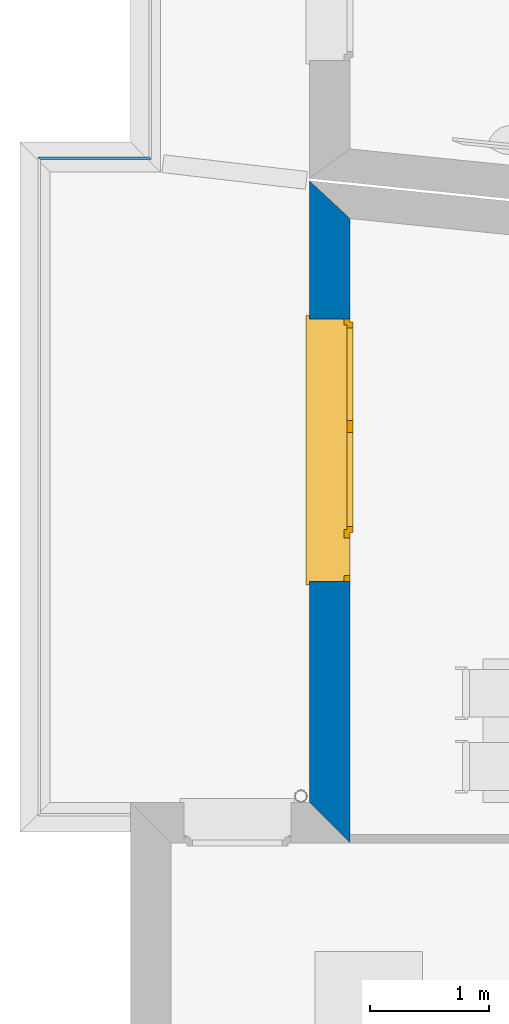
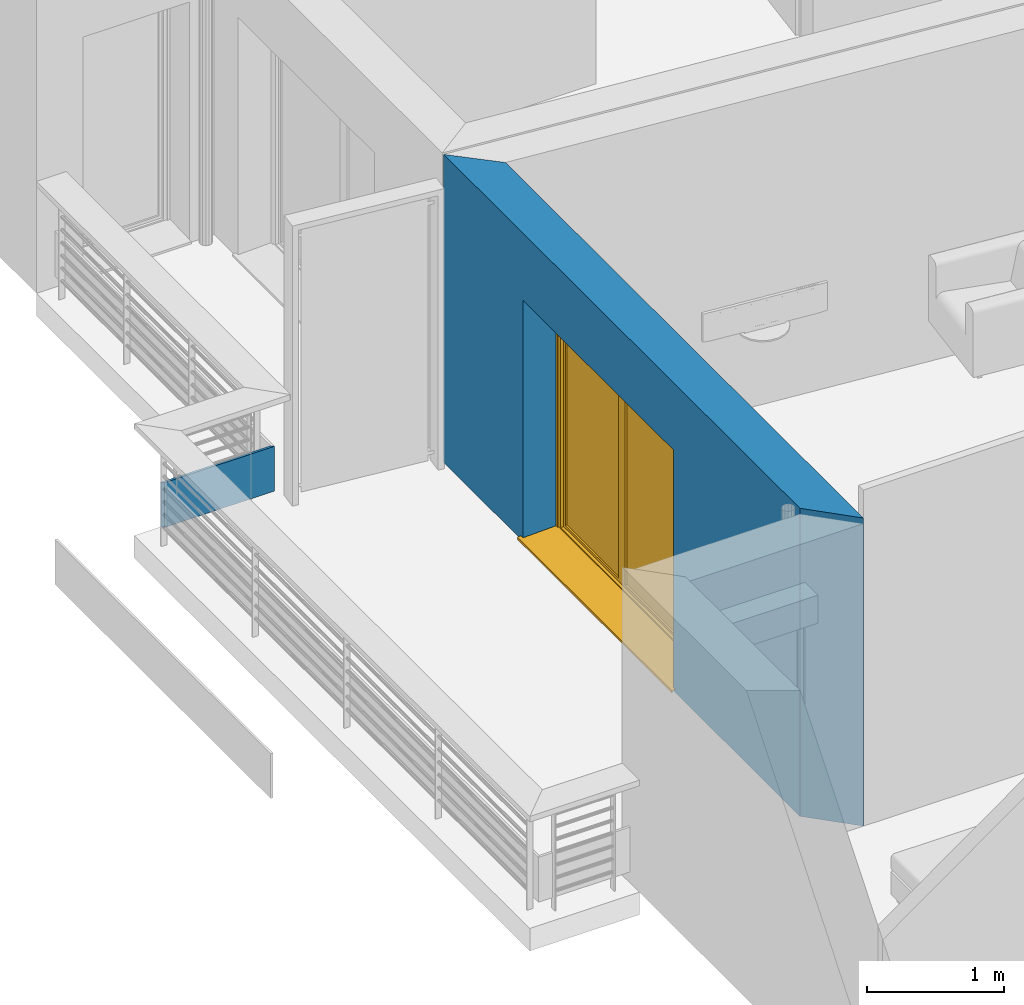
# One storey, part 42 of 164: 2 walls, 1 window, 1 opening.
"""IFC2X3 building model written with IfcOpenShell, lengths in millimetres."""

from ifc_helpers import new_model, entity, si_unit, converted_unit, derived_unit, money_unit, direction, frame, origin_with_axes, place, context, subcontext, project, spatial, polyline, outline, extrude, open_shell, faceted_brep, surface_model, source, transform, mapped, material, layer, layer_set, layer_usage, type_object, element, fill, save


model = new_model("IFC2X3")

# Units and contexts
model_context = context("Model", 3, precision=0.01, world=origin_with_axes(), true_north=direction((0.0, 1.0)))
body_context = subcontext(model_context, "Body", "Model", "MODEL_VIEW")
ifc_project = project(units=[si_unit("LENGTHUNIT", "METRE", prefix="MILLI"), si_unit("AREAUNIT", "SQUARE_METRE"), si_unit("VOLUMEUNIT", "CUBIC_METRE"), converted_unit("PLANEANGLEUNIT", "DEGREE", entity("IfcPlaneAngleMeasure", 0.0174532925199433), si_unit("PLANEANGLEUNIT", "RADIAN"), dimensions=[0, 0, 0, 0, 0, 0, 0]), money_unit("USD"), converted_unit("TIMEUNIT", "Year", entity("IfcTimeMeasure", 31557600.0), si_unit("TIMEUNIT", "SECOND"), dimensions=[0, 0, 1, 0, 0, 0, 0]), si_unit("MASSUNIT", "GRAM", prefix="KILO"), si_unit("THERMODYNAMICTEMPERATUREUNIT", "DEGREE_CELSIUS"), si_unit("LUMINOUSINTENSITYUNIT", "LUMEN"), si_unit("ENERGYUNIT", "JOULE", prefix="MEGA"), derived_unit("THERMALCONDUCTANCEUNIT", [(si_unit("POWERUNIT", "WATT"), 1), (si_unit("LENGTHUNIT", "METRE"), -1), (si_unit("THERMODYNAMICTEMPERATUREUNIT", "KELVIN"), -1)]), derived_unit("SPECIFICHEATCAPACITYUNIT", [(si_unit("ENERGYUNIT", "JOULE"), 1), (si_unit("MASSUNIT", "GRAM", prefix="KILO"), -1), (si_unit("THERMODYNAMICTEMPERATUREUNIT", "KELVIN"), -1)]), derived_unit("MASSDENSITYUNIT", [(si_unit("MASSUNIT", "GRAM", prefix="KILO"), 1), (si_unit("VOLUMEUNIT", "CUBIC_METRE"), -1)])], contexts=[model_context])

# Site, building, storey
site_placement = place(None, origin_with_axes())
site = spatial("IfcSite", under=ifc_project, at=site_placement, Name="Site", CompositionType="ELEMENT")
building_placement = place(site_placement, origin_with_axes())
building = spatial("IfcBuilding", under=site, at=building_placement, Name="Bâtiment", CompositionType="ELEMENT")
storey_placement = place(building_placement, frame((0.0, 0.0, 5750.0), z_axis=(0.0, 0.0, 1.0), x_axis=(1.0, 0.0, 0.0)))
storey = spatial("IfcBuildingStorey", under=building, at=storey_placement, Name="Etage1", CompositionType="ELEMENT", Elevation=5750.0)

# Wall
ifc_material_1 = material(Name="MANQUANT")
ifc_layer_1 = layer(ifc_material_1, 20.0, ventilated="UNKNOWN")
ifc_layer_set_1 = layer_set([ifc_layer_1], Name="MANQUANT 20")
ifc_layer_usage_1 = layer_usage(ifc_layer_set_1, "AXIS2", "NEGATIVE", 20.0)
wall_type_1 = type_object("IfcWallType", Name="MANQUANT 20", PredefinedType="NOTDEFINED")
wall_1_placement = place(storey_placement, frame((2216789.181069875, -620663.1638199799, 99.99999999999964), z_axis=(0.0, 0.0, 1.0), x_axis=(-1.0, 0.0, 0.0)))
element("IfcWallStandardCase", 1, at=wall_1_placement, inside=storey, type_object=wall_type_1, material=ifc_layer_usage_1, Name="Mur-187", context=body_context, shape_type="SweptSolid", body=[
    extrude(outline(polyline([(0.0, 0.0), (929.9455012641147, 0.0), (909.9455012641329, 20.00000000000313), (-19.99999999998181, 20.00000000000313), (0.0, 0.0)])), origin_with_axes(), (0.0, 0.0, 1.0), 400.0),
])

# Wall, opening, window
ifc_material_2 = material(Name="Parpaing 312445824")
ifc_layer_2 = layer(ifc_material_2, 180.0, ventilated="UNKNOWN")
ifc_material_3 = material(Name="Isolant styromousse 301821074")
ifc_layer_3 = layer(ifc_material_3, 160.0, ventilated="UNKNOWN")
ifc_layer_set_2 = layer_set([ifc_layer_2, ifc_layer_3], Name="isol int 18+16 0018356637")
ifc_layer_usage_2 = layer_usage(ifc_layer_set_2, "AXIS2", "POSITIVE", 0.0)
wall_type_2 = type_object("IfcWallType", Name="isol int 18+16 0018356637 340", PredefinedType="NOTDEFINED")
wall_2_placement = place(storey_placement, frame((2218134.233344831, -620861.89890305, 0.0), z_axis=(0.0, 0.0, 1.0), x_axis=(4.268874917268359e-07, -0.999999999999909, 0.0)))
wall_2 = element("IfcWallStandardCase", 2, at=wall_2_placement, inside=storey, type_object=wall_type_2, material=ifc_layer_usage_2, Name="Mur-143", context=body_context, shape_type="SweptSolid", body=[
    extrude(outline(polyline([(0.0, 0.0), (5209.315229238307, 0.0), (5549.315374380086, 339.9999999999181), (315.9944275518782, 339.9999999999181), (0.0, 0.0)])), origin_with_axes(), (0.0, 0.0, 1.0), 2750.0),
])
opening_placement = place(wall_2_placement, frame((2258.51458169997, -1.13686837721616e-10, 0.0), z_axis=(0.0, 0.0, 1.0), x_axis=(1.0, 0.0, 0.0)))
opening = element("IfcOpeningElement", 3, at=opening_placement, cuts=wall_2, Name="Fen-133", context=body_context, shape_type="Brep", body=[
    faceted_brep([(-1100.000000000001, 290.0000000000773, 2150.0), (-1100.000000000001, 341.0022237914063, 2150.0), (-1100.000000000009, 341.0022237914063, 0.0), (-1100.000000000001, 290.0000000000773, 0.0), (-1100.000000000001, 279.9999999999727, 2150.0), (-1100.000000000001, 279.9999999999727, 2400.0), (-1100.000000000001, 529.9999999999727, 2400.0), (-1100.000000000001, 529.9999999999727, 2150.0), (1100.000000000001, 341.0022237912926, 2150.0), (1100.000000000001, 341.0022237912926, 0.0), (1100.000000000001, 289.9999999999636, 0.0), (1100.000000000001, -1.00222379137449, 0.0), (-1100.000000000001, -1.002223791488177, 0.0), (-1100.000000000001, -1.002223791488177, 2150.0), (1100.000000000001, 279.9999999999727, 2150.0), (1100.000000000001, 279.9999999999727, 2400.0), (1099.999999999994, 530.0000000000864, 2400.0), (1099.999999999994, 530.0000000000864, 2150.0), (1099.999999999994, 289.9999999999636, 2150.0), (1100.000000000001, -1.00222379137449, 2150.0)], [[[0, 1, 2, 3]], [[1, 0, 4, 5, 6, 7]], [[1, 8, 9, 2]], [[10, 11, 12, 3, 2, 9]], [[4, 0, 3, 12, 13]], [[4, 14, 15, 5]], [[15, 16, 6, 5]], [[16, 17, 7, 6]], [[8, 1, 7, 17]], [[8, 18, 10, 9]], [[18, 14, 19, 11, 10]], [[13, 12, 11, 19]], [[14, 4, 13, 19]], [[18, 8, 17, 16, 15, 14]]]),
])
window_style = type_object("IfcWindowStyle", Name="Fenêtre châssis double variable 27", ConstructionType="NOTDEFINED", OperationType="TRIPLE_PANEL_VERTICAL", ParameterTakesPrecedence=False, Sizeable=False)
shared_shape = source(origin_with_axes(), body_context, "Body", "SurfaceModel", [
    surface_model("IfcShellBasedSurfaceModel", [(1100.0, -51.0, 40.00000000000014), (1100.0, -51.0, 50.00000000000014), (-1100.0, -51.0, 50.0), (-1100.0, -51.0, 40.0), (1130.0, -369.9999999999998, 28.96551724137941), (1130.0, -339.9999999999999, 30.00324289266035), (1100.0, -339.9999999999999, 30.00324289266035), (-1100.0, -339.9999999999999, 30.00324289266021), (-1130.0, -339.9999999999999, 30.00324289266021), (-1130.0, -369.9999999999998, 28.96551724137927), (1130.0, -369.9999999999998, 8.965517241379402), (-1130.0, -369.9999999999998, 8.965517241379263), (1130.0, -359.9999999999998, 18.9655172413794), (-1130.0, -359.9999999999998, 18.96551724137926)], [open_shell([[[0, 1, 2, 3]], [[4, 5, 6, 0, 3, 7, 8, 9]], [[10, 4, 9, 11]], [[12, 10, 11, 13]]])]),
    faceted_brep([(-1100.0, -60.0, 2400.0), (-1097.0, -60.0, 2400.0), (-1097.0, 189.9999999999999, 2400.0), (-1100.0, 189.9999999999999, 2400.0), (-1100.0, -60.0, 2150.0), (-1097.0, -60.0, 2150.0), (-1097.0, 189.9999999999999, 2150.0), (-1100.0, 189.9999999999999, 2150.0)], [[[0, 1, 2, 3]], [[4, 5, 1, 0]], [[1, 5, 6, 2]], [[3, 2, 6, 7]], [[0, 3, 7, 4]], [[7, 6, 5, 4]]]),
    faceted_brep([(1097.0, -59.99999999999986, 2400.0), (1100.0, -59.99999999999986, 2400.0), (1100.0, 190.0000000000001, 2400.0), (1097.0, 190.0000000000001, 2400.0), (1097.0, -59.99999999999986, 2150.0), (1100.0, -59.99999999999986, 2150.0), (1100.0, 190.0000000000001, 2150.0), (1097.0, 190.0000000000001, 2150.0)], [[[0, 1, 2, 3]], [[4, 5, 1, 0]], [[1, 5, 6, 2]], [[3, 2, 6, 7]], [[0, 3, 7, 4]], [[7, 6, 5, 4]]]),
    faceted_brep([(-1097.0, -59.99999999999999, 2150.0), (1097.0, -59.99999999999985, 2150.0), (1097.0, -59.99999999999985, 2400.0), (-1097.0, -59.99999999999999, 2400.0), (-1097.0, -56.99999999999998, 2150.0), (1097.0, -56.99999999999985, 2150.0), (1097.0, -56.99999999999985, 2397.0), (1097.0, 187.0000000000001, 2397.0), (1097.0, 187.0000000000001, 2153.0), (1097.0, -37.99999999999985, 2153.0), (1097.0, -37.99999999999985, 2150.0), (1097.0, 190.0000000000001, 2150.0), (1097.0, 190.0000000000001, 2400.0), (-1097.0, 189.9999999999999, 2400.0), (-1097.0, 189.9999999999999, 2150.0), (-1097.0, -37.99999999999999, 2150.0), (-1097.0, -37.99999999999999, 2153.0), (-1097.0, 187.0, 2153.0), (-1097.0, 187.0, 2397.0), (-1097.0, -56.99999999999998, 2397.0)], [[[0, 1, 2, 3]], [[4, 5, 1, 0]], [[1, 5, 6, 7, 8, 9, 10, 11, 12, 2]], [[3, 2, 12, 13]], [[0, 3, 13, 14, 15, 16, 17, 18, 19, 4]], [[19, 6, 5, 4]], [[18, 7, 6, 19]], [[17, 8, 7, 18]], [[16, 9, 8, 17]], [[15, 10, 9, 16]], [[14, 11, 10, 15]], [[13, 12, 11, 14]]]),
    faceted_brep([(-1094.0, -40.37442957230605, 2256.419644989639), (-1094.0, -41.99999999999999, 2275.0), (-1094.0, -40.37442957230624, 2293.580355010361), (-1094.0, -35.54711042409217, 2311.596155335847), (-1094.0, -27.66471820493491, 2328.5), (-1094.0, -16.96675541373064, 2343.77827423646), (-1094.0, -3.778274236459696, 2356.96675541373), (-1094.0, 11.5, 2367.664718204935), (-1094.0, 28.40384466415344, 2375.547110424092), (-1094.0, 46.41964498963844, 2380.374429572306), (-1094.0, 64.99999999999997, 2382.0), (-1094.0, 83.58035501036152, 2380.374429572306), (-1094.0, 101.5961553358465, 2375.547110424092), (-1094.0, 118.4999999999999, 2367.664718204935), (-1094.0, 133.7782742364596, 2356.96675541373), (-1094.0, 146.9667554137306, 2343.77827423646), (-1094.0, 157.6647182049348, 2328.5), (-1094.0, 165.5471104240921, 2311.596155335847), (-1094.0, 170.3744295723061, 2293.580355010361), (-1094.0, 171.9999999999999, 2275.0), (-1094.0, 170.3744295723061, 2256.419644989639), (-1094.0, 165.5471104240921, 2238.403844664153), (-1094.0, 157.6647182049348, 2221.5), (-1094.0, 146.9667554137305, 2206.22172576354), (-1094.0, 133.7782742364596, 2193.033244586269), (-1094.0, 118.4999999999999, 2182.335281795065), (-1094.0, 101.5961553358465, 2174.452889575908), (-1094.0, 83.58035501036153, 2169.625570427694), (-1094.0, 65.0, 2168.0), (-1094.0, 46.41964498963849, 2169.625570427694), (-1094.0, 28.40384466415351, 2174.452889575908), (-1094.0, 11.5000000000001, 2182.335281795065), (-1094.0, -3.778274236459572, 2193.033244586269), (-1094.0, -16.96675541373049, 2206.22172576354), (-1094.0, -27.66471820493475, 2221.5), (-1094.0, -35.54711042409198, 2238.403844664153), (1094.0, -40.37442957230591, 2256.419644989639), (1094.0, -41.99999999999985, 2275.0), (1094.0, -40.3744295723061, 2293.580355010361), (1094.0, -35.54711042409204, 2311.596155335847), (1094.0, -27.66471820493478, 2328.5), (1094.0, -16.9667554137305, 2343.77827423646), (1094.0, -3.778274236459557, 2356.96675541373), (1094.0, 11.50000000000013, 2367.664718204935), (1094.0, 28.40384466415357, 2375.547110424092), (1094.0, 46.41964498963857, 2380.374429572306), (1094.0, 65.00000000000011, 2382.0), (1094.0, 83.58035501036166, 2380.374429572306), (1094.0, 101.5961553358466, 2375.547110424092), (1094.0, 118.5000000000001, 2367.664718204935), (1094.0, 133.7782742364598, 2356.96675541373), (1094.0, 146.9667554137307, 2343.77827423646), (1094.0, 157.664718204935, 2328.5), (1094.0, 165.5471104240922, 2311.596155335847), (1094.0, 170.3744295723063, 2293.580355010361), (1094.0, 172.0, 2275.0), (1094.0, 170.3744295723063, 2256.419644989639), (1094.0, 165.5471104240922, 2238.403844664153), (1094.0, 157.6647182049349, 2221.5), (1094.0, 146.9667554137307, 2206.22172576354), (1094.0, 133.7782742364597, 2193.033244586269), (1094.0, 118.5000000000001, 2182.335281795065), (1094.0, 101.5961553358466, 2174.452889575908), (1094.0, 83.58035501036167, 2169.625570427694), (1094.0, 65.00000000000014, 2168.0), (1094.0, 46.41964498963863, 2169.625570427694), (1094.0, 28.40384466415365, 2174.452889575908), (1094.0, 11.50000000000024, 2182.335281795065), (1094.0, -3.778274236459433, 2193.033244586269), (1094.0, -16.96675541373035, 2206.22172576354), (1094.0, -27.66471820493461, 2221.5), (1094.0, -35.54711042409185, 2238.403844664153)], [[[0, 1, 2, 3, 4, 5, 6, 7, 8, 9, 10, 11, 12, 13, 14, 15, 16, 17, 18, 19, 20, 21, 22, 23, 24, 25, 26, 27, 28, 29, 30, 31, 32, 33, 34, 35]], [[0, 36, 37, 1]], [[1, 37, 38, 2]], [[2, 38, 39, 3]], [[3, 39, 40, 4]], [[4, 40, 41, 5]], [[5, 41, 42, 6]], [[6, 42, 43, 7]], [[7, 43, 44, 8]], [[8, 44, 45, 9]], [[9, 45, 46, 10]], [[10, 46, 47, 11]], [[11, 47, 48, 12]], [[12, 48, 49, 13]], [[13, 49, 50, 14]], [[14, 50, 51, 15]], [[15, 51, 52, 16]], [[16, 52, 53, 17]], [[17, 53, 54, 18]], [[18, 54, 55, 19]], [[19, 55, 56, 20]], [[20, 56, 57, 21]], [[21, 57, 58, 22]], [[22, 58, 59, 23]], [[23, 59, 60, 24]], [[24, 60, 61, 25]], [[25, 61, 62, 26]], [[26, 62, 63, 27]], [[27, 63, 64, 28]], [[28, 64, 65, 29]], [[29, 65, 66, 30]], [[30, 66, 67, 31]], [[31, 67, 68, 32]], [[32, 68, 69, 33]], [[33, 69, 70, 34]], [[34, 70, 71, 35]], [[35, 71, 36, 0]], [[36, 71, 70, 69, 68, 67, 66, 65, 64, 63, 62, 61, 60, 59, 58, 57, 56, 55, 54, 53, 52, 51, 50, 49, 48, 47, 46, 45, 44, 43, 42, 41, 40, 39, 38, 37]]]),
    faceted_brep([(1100.0, -34.99999999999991, 30.0), (1100.0, -34.99999999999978, 2150.0), (1100.0, -59.99999999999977, 2150.0), (1100.0, -59.99999999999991, 30.0), (1075.0, -34.99999999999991, 30.0), (1075.0, -34.99999999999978, 2150.0), (1075.0, -37.99999999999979, 2150.0), (1097.0, -37.99999999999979, 2150.0), (1097.0, -56.99999999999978, 2150.0), (1075.0, -56.99999999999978, 2150.0), (1075.0, -59.99999999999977, 2150.0), (1075.0, -59.99999999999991, 30.0), (1075.0, -56.99999999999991, 30.0), (1097.0, -56.99999999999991, 30.0), (1097.0, -37.99999999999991, 30.0), (1075.0, -37.99999999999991, 30.0)], [[[0, 1, 2, 3]], [[4, 5, 1, 0]], [[1, 5, 6, 7, 8, 9, 10, 2]], [[3, 2, 10, 11]], [[0, 3, 11, 12, 13, 14, 15, 4]], [[15, 6, 5, 4]], [[14, 7, 6, 15]], [[13, 8, 7, 14]], [[12, 9, 8, 13]], [[11, 10, 9, 12]]]),
    faceted_brep([(-1100.0, -34.99999999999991, 30.0), (-1100.0, -59.99999999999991, 30.0), (-1100.0, -59.99999999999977, 2150.0), (-1100.0, -34.99999999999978, 2150.0), (-1075.0, -34.99999999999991, 30.0), (-1075.0, -37.99999999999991, 30.0), (-1097.0, -37.99999999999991, 30.0), (-1097.0, -56.99999999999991, 30.0), (-1075.0, -56.99999999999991, 30.0), (-1075.0, -59.99999999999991, 30.0), (-1075.0, -59.99999999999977, 2150.0), (-1075.0, -56.99999999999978, 2150.0), (-1097.0, -56.99999999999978, 2150.0), (-1097.0, -37.99999999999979, 2150.0), (-1075.0, -37.99999999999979, 2150.0), (-1075.0, -34.99999999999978, 2150.0)], [[[0, 1, 2, 3]], [[0, 4, 5, 6, 7, 8, 9, 1]], [[1, 9, 10, 2]], [[3, 2, 10, 11, 12, 13, 14, 15]], [[4, 0, 3, 15]], [[5, 4, 15, 14]], [[6, 5, 14, 13]], [[7, 6, 13, 12]], [[8, 7, 12, 11]], [[9, 8, 11, 10]]]),
    faceted_brep([(1097.0, -46.6666666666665, 2275.0), (1097.0, -46.6666666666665, 2266.666666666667), (-1097.0, -46.66666666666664, 2266.666666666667), (-1097.0, -46.66666666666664, 2275.0), (1097.0, -51.66666666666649, 2275.0), (1097.0, -51.66666666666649, 2266.666666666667), (1097.0, -49.99999999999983, 2250.0), (1097.0, -44.99999999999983, 2250.0), (-1097.0, -44.99999999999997, 2250.0), (-1097.0, -49.99999999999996, 2250.0), (-1097.0, -51.66666666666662, 2266.666666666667), (-1097.0, -51.66666666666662, 2275.0)], [[[0, 1, 2, 3]], [[4, 5, 6, 7, 1, 0]], [[2, 1, 7, 8]], [[3, 2, 8, 9, 10, 11]], [[3, 11, 4, 0]], [[10, 5, 4, 11]], [[9, 6, 5, 10]], [[8, 7, 6, 9]]]),
    faceted_brep([(-1097.0, -44.99999999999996, 2250.0), (1097.0, -44.99999999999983, 2250.0), (1097.0, -46.6666666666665, 2233.333333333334), (-1097.0, -46.66666666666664, 2233.333333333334), (-1097.0, -49.99999999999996, 2250.0), (1097.0, -49.99999999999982, 2250.0), (1097.0, -51.66666666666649, 2233.333333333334), (1097.0, -51.66666666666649, 2216.666666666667), (1097.0, -49.99999999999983, 2200.0), (1097.0, -44.99999999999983, 2200.0), (1097.0, -46.6666666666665, 2216.666666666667), (-1097.0, -46.66666666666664, 2216.666666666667), (-1097.0, -44.99999999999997, 2200.0), (-1097.0, -49.99999999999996, 2200.0), (-1097.0, -51.66666666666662, 2216.666666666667), (-1097.0, -51.66666666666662, 2233.333333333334)], [[[0, 1, 2, 3]], [[4, 5, 1, 0]], [[1, 5, 6, 7, 8, 9, 10, 2]], [[3, 2, 10, 11]], [[0, 3, 11, 12, 13, 14, 15, 4]], [[15, 6, 5, 4]], [[14, 7, 6, 15]], [[13, 8, 7, 14]], [[12, 9, 8, 13]], [[11, 10, 9, 12]]]),
    faceted_brep([(-1097.0, -44.99999999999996, 2200.0), (1097.0, -44.99999999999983, 2200.0), (1097.0, -46.6666666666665, 2183.333333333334), (-1097.0, -46.66666666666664, 2183.333333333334), (-1097.0, -49.99999999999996, 2200.0), (1097.0, -49.99999999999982, 2200.0), (1097.0, -51.66666666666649, 2183.333333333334), (1097.0, -51.66666666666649, 2166.666666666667), (1097.0, -49.99999999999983, 2150.000000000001), (1097.0, -44.99999999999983, 2150.000000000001), (1097.0, -46.6666666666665, 2166.666666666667), (-1097.0, -46.66666666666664, 2166.666666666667), (-1097.0, -44.99999999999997, 2150.000000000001), (-1097.0, -49.99999999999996, 2150.000000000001), (-1097.0, -51.66666666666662, 2166.666666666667), (-1097.0, -51.66666666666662, 2183.333333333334)], [[[0, 1, 2, 3]], [[4, 5, 1, 0]], [[1, 5, 6, 7, 8, 9, 10, 2]], [[3, 2, 10, 11]], [[0, 3, 11, 12, 13, 14, 15, 4]], [[15, 6, 5, 4]], [[14, 7, 6, 15]], [[13, 8, 7, 14]], [[12, 9, 8, 13]], [[11, 10, 9, 12]]]),
    faceted_brep([(-1075.0, 0.0, 2100.0), (-1100.0, 0.0, 2100.0), (-1100.0, -50.00000000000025, 2100.0), (-1050.0, -50.00000000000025, 2100.0), (-1050.0, -25.00000000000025, 2100.0), (-1075.0, -25.00000000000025, 2100.0), (-1075.0, 0.0, 50.00000000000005), (-1100.0, 0.0, 50.00000000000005), (-1100.0, -49.99999999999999, 50.00000000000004), (-1050.0, -49.99999999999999, 50.00000000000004), (-1050.0, -25.0, 50.00000000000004), (-1075.0, -25.0, 50.00000000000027)], [[[0, 1, 2, 3, 4, 5]], [[6, 7, 1, 0]], [[1, 7, 8, 2]], [[2, 8, 9, 3]], [[4, 3, 9, 10]], [[10, 11, 5, 4]], [[5, 11, 6, 0]], [[11, 10, 9, 8, 7, 6]]]),
    faceted_brep([(664.9999999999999, -25.00000000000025, 2100.0), (664.9999999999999, -50.00000000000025, 2100.0), (735.0, -50.00000000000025, 2100.0), (735.0, 0.0, 2100.0), (690.0, 0.0, 2100.0), (690.0, -25.00000000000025, 2100.0), (664.9999999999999, -25.0, 50.00000000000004), (664.9999999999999, -49.99999999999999, 50.00000000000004), (735.0, -49.99999999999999, 50.00000000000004), (735.0, 0.0, 50.00000000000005), (690.0, 0.0, 50.00000000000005), (690.0, -25.0, 50.00000000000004)], [[[0, 1, 2, 3, 4, 5]], [[6, 7, 1, 0]], [[8, 2, 1, 7]], [[9, 3, 2, 8]], [[4, 3, 9, 10]], [[10, 11, 5, 4]], [[5, 11, 6, 0]], [[11, 10, 9, 8, 7, 6]]]),
    faceted_brep([(664.9999999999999, -25.0, 50.00000000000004), (664.9999999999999, -49.99999999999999, 50.00000000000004), (735.0, -49.99999999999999, 50.00000000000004), (735.0, 0.0, 50.00000000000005), (690.0, 0.0, 50.00000000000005), (690.0, -25.0, 50.00000000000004), (-1050.0, -25.0, 50.00000000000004), (-1050.0, -49.99999999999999, 50.00000000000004), (-1100.0, -49.99999999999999, 50.00000000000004), (-1100.0, -49.99999999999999, 0.0), (1100.0, -49.99999999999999, 0.0), (1100.0, -49.99999999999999, 50.00000000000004), (1050.0, -49.99999999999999, 50.00000000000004), (1050.0, 0.0, 50.00000000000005), (-1075.0, 0.0, 24.99999999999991), (690.0, 0.0, 24.99999999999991), (1100.0, 0.0, 50.00000000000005), (1100.0, 0.0, 0.0), (-1100.0, 0.0, 0.0), (-1100.0, 0.0, 50.00000000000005), (-1075.0, 0.0, 50.00000000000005), (690.0, -25.0, 24.99999999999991), (-1075.0, -25.0, 24.99999999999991), (-1075.0, -25.0, 50.00000000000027)], [[[0, 1, 2, 3, 4, 5]], [[6, 7, 1, 0]], [[8, 9, 10, 11, 12, 2, 1, 7]], [[13, 3, 2, 12]], [[14, 15, 4, 3, 13, 16, 17, 18, 19, 20]], [[15, 21, 5, 4]], [[5, 21, 22, 23, 6, 0]], [[23, 20, 19, 8, 7, 6]], [[19, 18, 9, 8]], [[18, 17, 10, 9]], [[17, 16, 11, 10]], [[16, 13, 12, 11]], [[14, 22, 21, 15]], [[23, 22, 14, 20]]]),
    faceted_brep([(-1075.0, 0.0, 2100.0), (-1100.0, 0.0, 2100.0), (-1100.0, 0.0, 2150.0), (1100.0, 0.0, 2150.0), (1100.0, 0.0, 2100.0), (1050.0, 0.0, 2100.0), (735.0, 0.0, 2100.0), (690.0, 0.0, 2100.0), (690.0, 0.0, 2125.0), (-1075.0, 0.0, 2125.0), (-1075.0, -25.00000000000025, 2100.0), (-1050.0, -25.00000000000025, 2100.0), (-1050.0, -50.00000000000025, 2100.0), (-1100.0, -50.00000000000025, 2100.0), (-1100.0, -50.00000000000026, 2150.0), (1100.0, -50.00000000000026, 2150.0), (1100.0, -50.00000000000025, 2100.0), (1050.0, -50.00000000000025, 2100.0), (735.0, -50.00000000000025, 2100.0), (690.0, -25.00000000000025, 2100.0), (664.9999999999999, -50.00000000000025, 2100.0), (664.9999999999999, -25.00000000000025, 2100.0), (690.0, -25.00000000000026, 2125.0), (-1075.0, -25.00000000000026, 2125.0)], [[[0, 1, 2, 3, 4, 5, 6, 7, 8, 9]], [[10, 11, 12, 13, 1, 0]], [[2, 1, 13, 14]], [[3, 2, 14, 15]], [[4, 3, 15, 16]], [[5, 4, 16, 17]], [[6, 5, 17, 18]], [[19, 7, 6, 18, 20, 21]], [[7, 19, 22, 8]], [[8, 22, 23, 9]], [[9, 23, 10, 0]], [[21, 11, 10, 23, 22, 19]], [[21, 20, 12, 11]], [[18, 17, 16, 15, 14, 13, 12, 20]]]),
    faceted_brep([(1050.0, -49.99999999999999, 50.0), (1050.0, 0.0, 50.00000000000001), (1100.0, 0.0, 50.00000000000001), (1100.0, -49.99999999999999, 50.0), (1050.0, -50.00000000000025, 2100.0), (1050.0, 0.0, 2100.0), (1100.0, 0.0, 2100.0), (1100.0, -50.00000000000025, 2100.0)], [[[0, 1, 2, 3]], [[4, 5, 1, 0]], [[1, 5, 6, 2]], [[3, 2, 6, 7]], [[0, 3, 7, 4]], [[7, 6, 5, 4]]]),
    faceted_brep([(-1025.0, -25.00000000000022, 2075.0), (-1025.0, 24.99999999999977, 2075.0), (-1075.0, 24.99999999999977, 2075.0), (-1075.0, -25.00000000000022, 2075.0), (-1025.0, -24.99999999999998, 75.00000000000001), (-1025.0, 25.00000000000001, 75.00000000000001), (-1075.0, 25.00000000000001, 75.00000000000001), (-1075.0, -24.99999999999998, 75.00000000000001)], [[[0, 1, 2, 3]], [[4, 5, 1, 0]], [[1, 5, 6, 2]], [[3, 2, 6, 7]], [[0, 3, 7, 4]], [[7, 6, 5, 4]]]),
    faceted_brep([(-249.9999999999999, -25.00000000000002, 75.00000000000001), (-249.9999999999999, 24.99999999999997, 75.00000000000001), (-199.9999999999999, 24.99999999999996, 75.00000000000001), (-199.9999999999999, -25.00000000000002, 75.00000000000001), (-249.9999999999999, -25.00000000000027, 2075.0), (-249.9999999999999, 24.99999999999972, 2075.0), (-199.9999999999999, 24.99999999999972, 2075.0), (-199.9999999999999, -25.00000000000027, 2075.0)], [[[0, 1, 2, 3]], [[4, 5, 1, 0]], [[1, 5, 6, 2]], [[3, 2, 6, 7]], [[0, 3, 7, 4]], [[7, 6, 5, 4]]]),
    faceted_brep([(-199.9999999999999, -25.00000000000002, 25.0), (-199.9999999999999, 24.99999999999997, 25.00000000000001), (-199.9999999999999, 24.99999999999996, 75.00000000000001), (-199.9999999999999, -25.00000000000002, 75.00000000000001), (-1075.0, -24.99999999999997, 25.0), (-1075.0, 25.00000000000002, 25.00000000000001), (-1075.0, 25.00000000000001, 75.00000000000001), (-1025.0, 25.00000000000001, 75.00000000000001), (-249.9999999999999, 24.99999999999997, 75.00000000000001), (-249.9999999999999, -25.00000000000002, 75.00000000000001), (-1025.0, -24.99999999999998, 75.00000000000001), (-1075.0, -24.99999999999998, 75.00000000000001)], [[[0, 1, 2, 3]], [[4, 5, 1, 0]], [[1, 5, 6, 7, 8, 2]], [[3, 2, 8, 9]], [[0, 3, 9, 10, 11, 4]], [[11, 6, 5, 4]], [[10, 7, 6, 11]], [[9, 8, 7, 10]]]),
    faceted_brep([(-1075.0, -25.00000000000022, 2125.0), (-1075.0, 24.99999999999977, 2125.0), (-1075.0, 24.99999999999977, 2075.0), (-1075.0, -25.00000000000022, 2075.0), (-199.9999999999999, -25.00000000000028, 2125.0), (-199.9999999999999, 24.99999999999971, 2125.0), (-199.9999999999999, 24.99999999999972, 2075.0), (-249.9999999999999, 24.99999999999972, 2075.0), (-1025.0, 24.99999999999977, 2075.0), (-1025.0, -25.00000000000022, 2075.0), (-249.9999999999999, -25.00000000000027, 2075.0), (-199.9999999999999, -25.00000000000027, 2075.0)], [[[0, 1, 2, 3]], [[4, 5, 1, 0]], [[1, 5, 6, 7, 8, 2]], [[3, 2, 8, 9]], [[0, 3, 9, 10, 11, 4]], [[11, 6, 5, 4]], [[10, 7, 6, 11]], [[9, 8, 7, 10]]]),
    surface_model("IfcShellBasedSurfaceModel", [(-1025.0, -10.00000000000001, 75.00000000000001), (-249.9999999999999, -10.00000000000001, 75.00000000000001), (-249.9999999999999, -10.00000000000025, 2075.0), (-1025.0, -10.00000000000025, 2075.0)], [open_shell([[[0, 1, 2, 3]]])]),
    surface_model("IfcShellBasedSurfaceModel", [(-1025.0, 9.999999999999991, 75.00000000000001), (-1025.0, 9.99999999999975, 2075.0), (-249.9999999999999, 9.99999999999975, 2075.0), (-249.9999999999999, 9.999999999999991, 75.00000000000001)], [open_shell([[[0, 1, 2, 3]]])]),
    faceted_brep([(-149.9999999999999, -25.00000000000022, 2075.0), (-149.9999999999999, 24.99999999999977, 2075.0), (-199.9999999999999, 24.99999999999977, 2075.0), (-199.9999999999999, -25.00000000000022, 2075.0), (-149.9999999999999, -24.99999999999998, 75.00000000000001), (-149.9999999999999, 25.00000000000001, 75.00000000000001), (-199.9999999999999, 25.00000000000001, 75.00000000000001), (-199.9999999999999, -24.99999999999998, 75.00000000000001)], [[[0, 1, 2, 3]], [[4, 5, 1, 0]], [[1, 5, 6, 2]], [[3, 2, 6, 7]], [[0, 3, 7, 4]], [[7, 6, 5, 4]]]),
    faceted_brep([(640.0, -25.00000000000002, 75.00000000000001), (640.0, 24.99999999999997, 75.00000000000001), (690.0, 24.99999999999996, 75.00000000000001), (690.0, -25.00000000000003, 75.00000000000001), (640.0, -25.00000000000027, 2075.0), (640.0, 24.99999999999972, 2075.0), (690.0, 24.99999999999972, 2075.0), (690.0, -25.00000000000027, 2075.0)], [[[0, 1, 2, 3]], [[4, 5, 1, 0]], [[1, 5, 6, 2]], [[3, 2, 6, 7]], [[0, 3, 7, 4]], [[7, 6, 5, 4]]]),
    faceted_brep([(690.0, -25.00000000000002, 25.0), (690.0, 24.99999999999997, 25.00000000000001), (690.0, 24.99999999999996, 75.00000000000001), (690.0, -25.00000000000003, 75.00000000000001), (-199.9999999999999, -24.99999999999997, 25.0), (-199.9999999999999, 25.00000000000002, 25.00000000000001), (-199.9999999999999, 25.00000000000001, 75.00000000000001), (-149.9999999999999, 25.00000000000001, 75.00000000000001), (640.0, 24.99999999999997, 75.00000000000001), (640.0, -25.00000000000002, 75.00000000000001), (-149.9999999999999, -24.99999999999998, 75.00000000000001), (-199.9999999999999, -24.99999999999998, 75.00000000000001)], [[[0, 1, 2, 3]], [[4, 5, 1, 0]], [[1, 5, 6, 7, 8, 2]], [[3, 2, 8, 9]], [[0, 3, 9, 10, 11, 4]], [[11, 6, 5, 4]], [[10, 7, 6, 11]], [[9, 8, 7, 10]]]),
    faceted_brep([(-199.9999999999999, -25.00000000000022, 2125.0), (-199.9999999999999, 24.99999999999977, 2125.0), (-199.9999999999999, 24.99999999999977, 2075.0), (-199.9999999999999, -25.00000000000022, 2075.0), (690.0, -25.00000000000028, 2125.0), (690.0, 24.99999999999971, 2125.0), (690.0, 24.99999999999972, 2075.0), (640.0, 24.99999999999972, 2075.0), (-149.9999999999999, 24.99999999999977, 2075.0), (-149.9999999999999, -25.00000000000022, 2075.0), (640.0, -25.00000000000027, 2075.0), (690.0, -25.00000000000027, 2075.0)], [[[0, 1, 2, 3]], [[4, 5, 1, 0]], [[1, 5, 6, 7, 8, 2]], [[3, 2, 8, 9]], [[0, 3, 9, 10, 11, 4]], [[11, 6, 5, 4]], [[10, 7, 6, 11]], [[9, 8, 7, 10]]]),
    surface_model("IfcShellBasedSurfaceModel", [(-149.9999999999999, -10.00000000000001, 75.00000000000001), (640.0, -10.00000000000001, 75.00000000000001), (640.0, -10.00000000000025, 2075.0), (-149.9999999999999, -10.00000000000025, 2075.0)], [open_shell([[[0, 1, 2, 3]]])]),
    surface_model("IfcShellBasedSurfaceModel", [(-149.9999999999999, 9.999999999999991, 75.00000000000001), (-149.9999999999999, 9.99999999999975, 2075.0), (640.0, 9.99999999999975, 2075.0), (640.0, 9.999999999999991, 75.00000000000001)], [open_shell([[[0, 1, 2, 3]]])]),
    surface_model("IfcShellBasedSurfaceModel", [(735.0, -34.99999999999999, 49.99999999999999), (1050.0, -34.99999999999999, 49.99999999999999), (1050.0, -35.00000000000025, 2100.0), (735.0, -35.00000000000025, 2100.0)], [open_shell([[[0, 1, 2, 3]]])]),
    surface_model("IfcShellBasedSurfaceModel", [(735.0, -15.0, 49.99999999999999), (735.0, -15.00000000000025, 2100.0), (1050.0, -15.00000000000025, 2100.0), (1050.0, -15.0, 49.99999999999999)], [open_shell([[[0, 1, 2, 3]]])]),
])
window_placement = place(opening_placement, frame((-1099.999999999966, -1.13686837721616e-10, 0.0), z_axis=(0.0, 0.0, 1.0), x_axis=(1.0, 0.0, 0.0)))
window = element("IfcWindow", 4, at=window_placement, inside=storey, type_object=window_style, Name="Fen-133", OverallHeight=2150.0, OverallWidth=2200.0, context=body_context, shape_type="MappedRepresentation", body=[
    mapped(shared_shape, transform((1100.000000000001, 340.0000000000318, 0.0))),
])
fill(opening, window)

save(model, "model.ifc")
